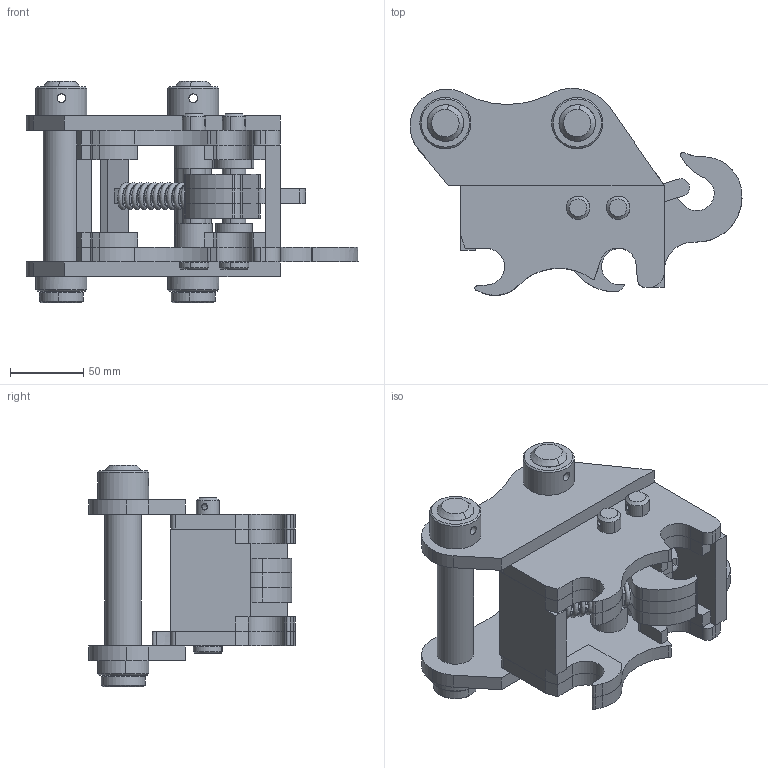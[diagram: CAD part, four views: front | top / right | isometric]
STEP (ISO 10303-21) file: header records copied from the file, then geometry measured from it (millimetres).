
FILE_DESCRIPTION(/* description */ (''),/* implementation_level */ '2;1');
FILE_NAME(/* name */ 'QUICK HITCH.stp',/* time_stamp */ '2026-03-18T22:25:35+01:00',/* author */ (''),/* organization */ (''),/* preprocessor_version */ 'ST-DEVELOPER v18.1',/* originating_system */ 'SIEMENS PLM Software NX 2000',/* authorisation */ '');
FILE_SCHEMA (('AUTOMOTIVE_DESIGN { 1 0 10303 214 3 1 1 1 }'));
Length unit declared in the file: millimetre
Products named in the file (1): mark6EA4EDBC3xa1
Bounding box: 227.07 x 141.48 x 151.75 mm (x, y, z)
Volume: 782329.2 mm3; surface area: 228366.3 mm2
Topology: 28 solids, 28 shells, 324 faces, 796 edges, 530 vertices
Faces by surface type: plane 147, cylinder 144, cone 18, extrusion 13, bspline 2
Full cylindrical faces by diameter (mm): 6 x6, 25 x4, 35 x2
Entity records: 13870 total; most frequent: CARTESIAN_POINT 5903, DIRECTION 1633, ORIENTED_EDGE 1520, EDGE_CURVE 760, AXIS2_PLACEMENT_3D 608, VERTEX_POINT 522, VECTOR 417, EDGE_LOOP 408
